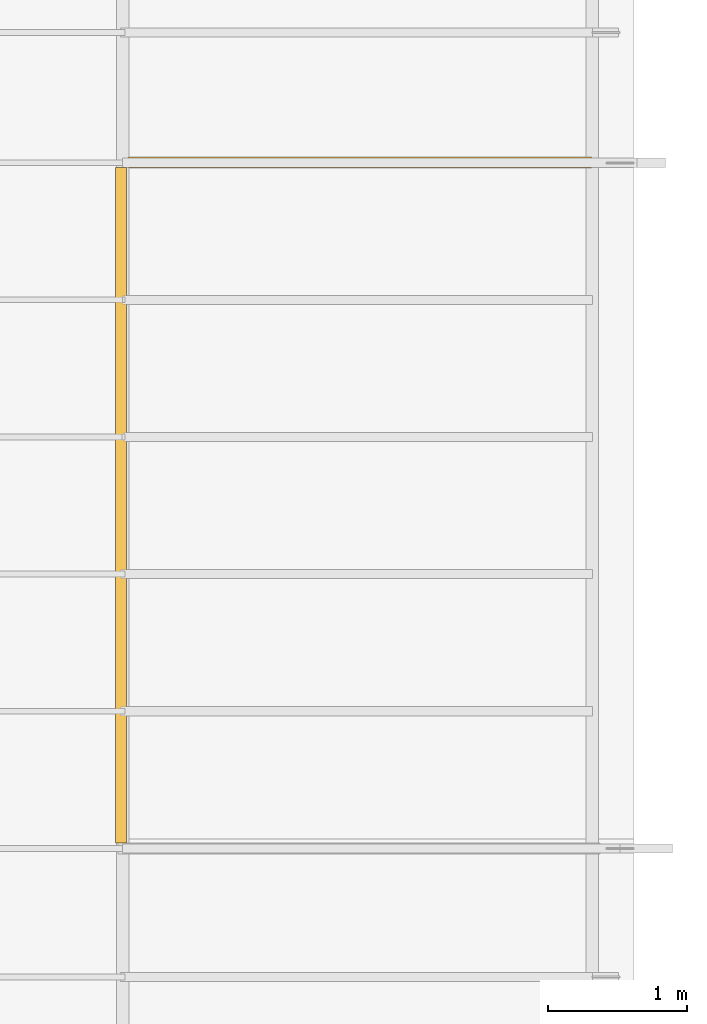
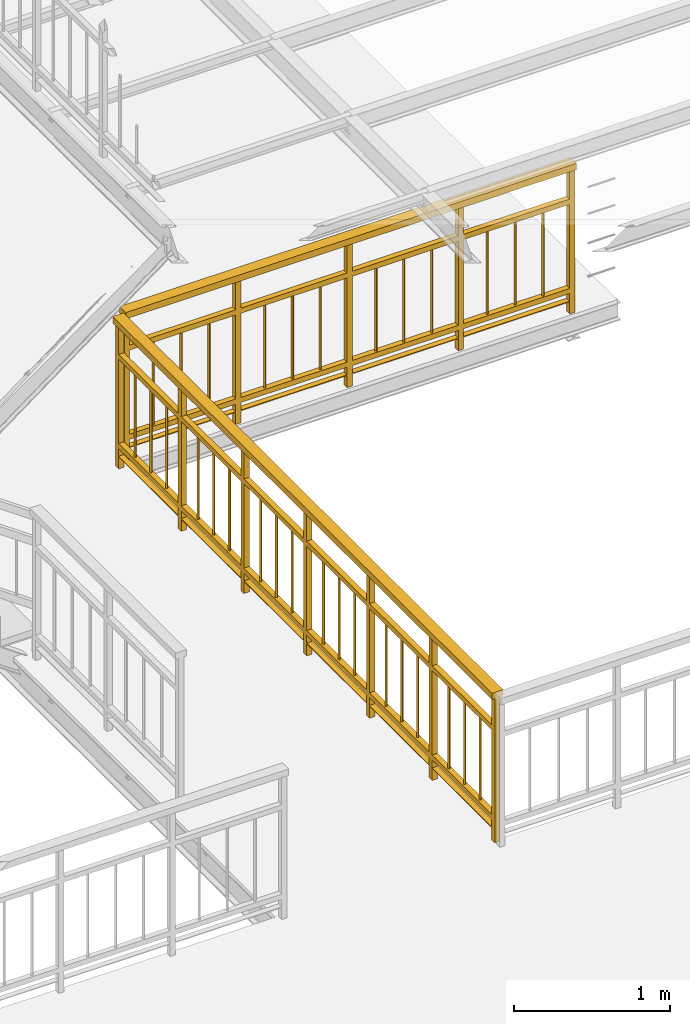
# One storey, part 30 of 33: 2 railings.
"""IFC2X3 building model written with IfcOpenShell, lengths in metres."""

from ifc_helpers import new_model, entity, si_unit, converted_unit, derived_unit, direction, frame, origin, place, context, subcontext, project, spatial, faceted_brep, element, save


model = new_model("IFC2X3")

# Units and contexts
model_context = context("Model", 3, precision=1e-05, world=origin(), true_north=direction((6.12303176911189e-17, 1.0)))
body_context = subcontext(model_context, "Body", "Model", "MODEL_VIEW")
ifc_project = project(units=[si_unit("LENGTHUNIT", "METRE"), si_unit("AREAUNIT", "SQUARE_METRE"), si_unit("VOLUMEUNIT", "CUBIC_METRE"), converted_unit("PLANEANGLEUNIT", "DEGREE", entity("IfcRatioMeasure", 0.0174532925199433), si_unit("PLANEANGLEUNIT", "RADIAN"), dimensions=[0, 0, 0, 0, 0, 0, 0]), si_unit("MASSUNIT", "GRAM", prefix="KILO"), derived_unit("MASSDENSITYUNIT", [(si_unit("MASSUNIT", "GRAM", prefix="KILO"), 1), (si_unit("LENGTHUNIT", "METRE"), -3)]), derived_unit("MOMENTOFINERTIAUNIT", [(si_unit("LENGTHUNIT", "METRE"), 4)]), si_unit("TIMEUNIT", "SECOND"), si_unit("FREQUENCYUNIT", "HERTZ"), si_unit("THERMODYNAMICTEMPERATUREUNIT", "DEGREE_CELSIUS"), derived_unit("THERMALTRANSMITTANCEUNIT", [(si_unit("MASSUNIT", "GRAM", prefix="KILO"), 1), (si_unit("THERMODYNAMICTEMPERATUREUNIT", "KELVIN"), -1), (si_unit("TIMEUNIT", "SECOND"), -3)]), derived_unit("VOLUMETRICFLOWRATEUNIT", [(si_unit("LENGTHUNIT", "METRE"), 3), (si_unit("TIMEUNIT", "SECOND"), -1)]), si_unit("ELECTRICCURRENTUNIT", "AMPERE"), si_unit("ELECTRICVOLTAGEUNIT", "VOLT"), si_unit("POWERUNIT", "WATT"), si_unit("FORCEUNIT", "NEWTON", prefix="KILO"), si_unit("ILLUMINANCEUNIT", "LUX"), si_unit("LUMINOUSFLUXUNIT", "LUMEN"), si_unit("LUMINOUSINTENSITYUNIT", "CANDELA"), derived_unit("USERDEFINED", [(si_unit("MASSUNIT", "GRAM", prefix="KILO"), -1), (si_unit("LENGTHUNIT", "METRE"), -2), (si_unit("TIMEUNIT", "SECOND"), 3), (si_unit("LUMINOUSFLUXUNIT", "LUMEN"), 1)]), derived_unit("LINEARVELOCITYUNIT", [(si_unit("LENGTHUNIT", "METRE"), 1), (si_unit("TIMEUNIT", "SECOND"), -1)]), si_unit("PRESSUREUNIT", "PASCAL"), derived_unit("USERDEFINED", [(si_unit("LENGTHUNIT", "METRE"), -2), (si_unit("MASSUNIT", "GRAM", prefix="KILO"), 1), (si_unit("TIMEUNIT", "SECOND"), -2)]), derived_unit("LINEARFORCEUNIT", [(si_unit("MASSUNIT", "GRAM", prefix="KILO"), 1), (si_unit("LENGTHUNIT", "METRE"), 1), (si_unit("TIMEUNIT", "SECOND"), -2), (si_unit("LENGTHUNIT", "METRE"), -1)]), derived_unit("PLANARFORCEUNIT", [(si_unit("MASSUNIT", "GRAM", prefix="KILO"), 1), (si_unit("LENGTHUNIT", "METRE"), 1), (si_unit("TIMEUNIT", "SECOND"), -2), (si_unit("LENGTHUNIT", "METRE"), -2)])], contexts=[model_context])

# Site, building, storey
site_placement = place(None, origin())
site = spatial("IfcSite", under=ifc_project, at=site_placement, Name="Superficie", CompositionType="ELEMENT")
building_placement = place(site_placement, origin())
building = spatial("IfcBuilding", under=site, at=building_placement, Name="Telegestiones", CompositionType="ELEMENT")
storey_placement = place(building_placement, frame((0.0, 0.0, 4.94)))
storey = spatial("IfcBuildingStorey", under=building, at=storey_placement, Name="Nivel 1_NPT", CompositionType="ELEMENT", Elevation=4.94)

# Railings
railing_1_placement = place(storey_placement, frame((11.3148126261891, 6.39560722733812, 0.0)))
element("IfcRailing", 1, at=railing_1_placement, inside=storey, Name="Barandilla:ARQ-BA-IN-118-Hi-Ba3", ObjectType="Barandilla:ARQ-BA-IN-118-Hi-Ba3", PredefinedType="NOTDEFINED", context=body_context, shape_type="Brep", body=[
    faceted_brep([(3.1185922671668, 0.0500000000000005, 0.859999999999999), (3.1285922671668, 0.0400000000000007, 0.859999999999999), (3.1285922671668, 0.0400000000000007, 0.2), (3.1185922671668, 0.0500000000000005, 0.2), (3.1185922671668, 0.0300000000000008, 0.859999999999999), (3.1185922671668, 0.0300000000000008, 0.2), (3.1085922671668, 0.0400000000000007, 0.2), (3.1085922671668, 0.0400000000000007, 0.859999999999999)], [[[0, 1, 2, 3]], [[4, 5, 2, 1]], [[6, 5, 4, 7]], [[0, 3, 6, 7]], [[7, 4, 1, 0]], [[5, 6, 3, 2]]]),
    faceted_brep([(2.91201944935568, 0.0500000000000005, 0.859999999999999), (2.92201944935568, 0.0400000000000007, 0.859999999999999), (2.92201944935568, 0.0400000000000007, 0.2), (2.91201944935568, 0.0500000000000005, 0.2), (2.91201944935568, 0.0300000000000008, 0.859999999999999), (2.91201944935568, 0.0300000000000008, 0.2), (2.90201944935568, 0.0400000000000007, 0.2), (2.90201944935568, 0.0400000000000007, 0.859999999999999)], [[[0, 1, 2, 3]], [[4, 5, 2, 1]], [[6, 5, 4, 7]], [[0, 3, 6, 7]], [[7, 4, 1, 0]], [[5, 6, 3, 2]]]),
    faceted_brep([(2.70544663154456, 0.0500000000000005, 0.859999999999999), (2.71544663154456, 0.0400000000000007, 0.859999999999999), (2.71544663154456, 0.0400000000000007, 0.2), (2.70544663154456, 0.0500000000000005, 0.2), (2.70544663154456, 0.0300000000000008, 0.859999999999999), (2.70544663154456, 0.0300000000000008, 0.2), (2.69544663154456, 0.0400000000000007, 0.2), (2.69544663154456, 0.0400000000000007, 0.859999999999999)], [[[0, 1, 2, 3]], [[4, 5, 2, 1]], [[6, 5, 4, 7]], [[0, 3, 6, 7]], [[7, 4, 1, 0]], [[5, 6, 3, 2]]]),
    faceted_brep([(2.47887381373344, 0.0200000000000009, 1.13), (2.47887381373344, 0.0600000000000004, 1.13), (2.47887381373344, 0.0600000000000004, 0.0), (2.47887381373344, 0.0200000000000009, 0.0), (2.51887381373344, 0.0600000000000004, 1.13), (2.51887381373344, 0.0600000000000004, 0.0), (2.51887381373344, 0.0200000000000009, 1.13), (2.51887381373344, 0.0200000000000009, 0.0)], [[[0, 1, 2, 3]], [[1, 4, 5, 2]], [[4, 6, 7, 5]], [[3, 7, 6, 0]], [[0, 6, 4, 1]], [[2, 5, 7, 3]]]),
    faceted_brep([(2.29230099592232, 0.0500000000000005, 0.859999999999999), (2.30230099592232, 0.0400000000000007, 0.859999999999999), (2.30230099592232, 0.0400000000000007, 0.2), (2.29230099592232, 0.0500000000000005, 0.2), (2.29230099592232, 0.0300000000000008, 0.859999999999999), (2.29230099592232, 0.0300000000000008, 0.2), (2.28230099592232, 0.0400000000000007, 0.2), (2.28230099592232, 0.0400000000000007, 0.859999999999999)], [[[0, 1, 2, 3]], [[4, 5, 2, 1]], [[6, 5, 4, 7]], [[0, 3, 6, 7]], [[7, 4, 1, 0]], [[5, 6, 3, 2]]]),
    faceted_brep([(2.0857281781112, 0.0500000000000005, 0.859999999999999), (2.0957281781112, 0.0400000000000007, 0.859999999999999), (2.0957281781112, 0.0400000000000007, 0.2), (2.0857281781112, 0.0500000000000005, 0.2), (2.0857281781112, 0.0300000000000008, 0.859999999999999), (2.0857281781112, 0.0300000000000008, 0.2), (2.0757281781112, 0.0400000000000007, 0.2), (2.0757281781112, 0.0400000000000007, 0.859999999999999)], [[[0, 1, 2, 3]], [[4, 5, 2, 1]], [[6, 5, 4, 7]], [[0, 3, 6, 7]], [[7, 4, 1, 0]], [[5, 6, 3, 2]]]),
    faceted_brep([(1.87915536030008, 0.0500000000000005, 0.859999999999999), (1.88915536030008, 0.0400000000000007, 0.859999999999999), (1.88915536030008, 0.0400000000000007, 0.2), (1.87915536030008, 0.0500000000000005, 0.2), (1.87915536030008, 0.0300000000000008, 0.859999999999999), (1.87915536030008, 0.0300000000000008, 0.2), (1.86915536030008, 0.0400000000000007, 0.2), (1.86915536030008, 0.0400000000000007, 0.859999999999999)], [[[0, 1, 2, 3]], [[4, 5, 2, 1]], [[6, 5, 4, 7]], [[0, 3, 6, 7]], [[7, 4, 1, 0]], [[5, 6, 3, 2]]]),
    faceted_brep([(1.65258254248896, 0.0200000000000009, 1.13), (1.65258254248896, 0.0600000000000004, 1.13), (1.65258254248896, 0.0600000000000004, 0.0), (1.65258254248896, 0.0200000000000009, 0.0), (1.69258254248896, 0.0600000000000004, 1.13), (1.69258254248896, 0.0600000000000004, 0.0), (1.69258254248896, 0.0200000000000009, 1.13), (1.69258254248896, 0.0200000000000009, 0.0)], [[[0, 1, 2, 3]], [[1, 4, 5, 2]], [[4, 6, 7, 5]], [[3, 7, 6, 0]], [[0, 6, 4, 1]], [[2, 5, 7, 3]]]),
    faceted_brep([(1.46600972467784, 0.0500000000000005, 0.859999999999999), (1.47600972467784, 0.0400000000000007, 0.859999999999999), (1.47600972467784, 0.0400000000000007, 0.2), (1.46600972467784, 0.0500000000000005, 0.2), (1.46600972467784, 0.0300000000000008, 0.859999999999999), (1.46600972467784, 0.0300000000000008, 0.2), (1.45600972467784, 0.0400000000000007, 0.2), (1.45600972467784, 0.0400000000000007, 0.859999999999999)], [[[0, 1, 2, 3]], [[4, 5, 2, 1]], [[6, 5, 4, 7]], [[0, 3, 6, 7]], [[7, 4, 1, 0]], [[5, 6, 3, 2]]]),
    faceted_brep([(1.25943690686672, 0.0500000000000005, 0.859999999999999), (1.26943690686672, 0.0400000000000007, 0.859999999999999), (1.26943690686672, 0.0400000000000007, 0.2), (1.25943690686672, 0.0500000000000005, 0.2), (1.25943690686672, 0.0300000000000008, 0.859999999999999), (1.25943690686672, 0.0300000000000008, 0.2), (1.24943690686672, 0.0400000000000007, 0.2), (1.24943690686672, 0.0400000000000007, 0.859999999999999)], [[[0, 1, 2, 3]], [[4, 5, 2, 1]], [[6, 5, 4, 7]], [[0, 3, 6, 7]], [[7, 4, 1, 0]], [[5, 6, 3, 2]]]),
    faceted_brep([(1.0528640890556, 0.0500000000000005, 0.859999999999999), (1.0628640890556, 0.0400000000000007, 0.859999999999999), (1.0628640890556, 0.0400000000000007, 0.2), (1.0528640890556, 0.0500000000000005, 0.2), (1.0528640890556, 0.0300000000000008, 0.859999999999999), (1.0528640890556, 0.0300000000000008, 0.2), (1.0428640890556, 0.0400000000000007, 0.2), (1.0428640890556, 0.0400000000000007, 0.859999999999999)], [[[0, 1, 2, 3]], [[4, 5, 2, 1]], [[6, 5, 4, 7]], [[0, 3, 6, 7]], [[7, 4, 1, 0]], [[5, 6, 3, 2]]]),
    faceted_brep([(0.826291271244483, 0.0200000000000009, 1.13), (0.826291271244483, 0.0600000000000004, 1.13), (0.826291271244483, 0.0600000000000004, 0.0), (0.826291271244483, 0.0200000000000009, 0.0), (0.866291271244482, 0.0600000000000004, 1.13), (0.866291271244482, 0.0600000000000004, 0.0), (0.866291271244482, 0.0200000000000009, 1.13), (0.866291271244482, 0.0200000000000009, 0.0)], [[[0, 1, 2, 3]], [[1, 4, 5, 2]], [[4, 6, 7, 5]], [[3, 7, 6, 0]], [[0, 6, 4, 1]], [[2, 5, 7, 3]]]),
    faceted_brep([(0.639718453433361, 0.0500000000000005, 0.859999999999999), (0.649718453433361, 0.0400000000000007, 0.859999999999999), (0.649718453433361, 0.0400000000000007, 0.2), (0.639718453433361, 0.0500000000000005, 0.2), (0.639718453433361, 0.0300000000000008, 0.859999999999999), (0.639718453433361, 0.0300000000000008, 0.2), (0.629718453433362, 0.0400000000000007, 0.2), (0.629718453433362, 0.0400000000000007, 0.859999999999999)], [[[0, 1, 2, 3]], [[4, 5, 2, 1]], [[6, 5, 4, 7]], [[0, 3, 6, 7]], [[7, 4, 1, 0]], [[5, 6, 3, 2]]]),
    faceted_brep([(0.433145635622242, 0.0500000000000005, 0.859999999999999), (0.443145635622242, 0.0400000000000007, 0.859999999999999), (0.443145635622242, 0.0400000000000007, 0.2), (0.433145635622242, 0.0500000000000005, 0.2), (0.433145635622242, 0.0300000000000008, 0.859999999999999), (0.433145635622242, 0.0300000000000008, 0.2), (0.423145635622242, 0.0400000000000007, 0.2), (0.423145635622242, 0.0400000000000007, 0.859999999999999)], [[[0, 1, 2, 3]], [[4, 5, 2, 1]], [[6, 5, 4, 7]], [[0, 3, 6, 7]], [[7, 4, 1, 0]], [[5, 6, 3, 2]]]),
    faceted_brep([(0.226572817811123, 0.0500000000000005, 0.859999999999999), (0.236572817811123, 0.0400000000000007, 0.859999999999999), (0.236572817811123, 0.0400000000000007, 0.2), (0.226572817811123, 0.0500000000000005, 0.2), (0.226572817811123, 0.0300000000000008, 0.859999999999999), (0.226572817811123, 0.0300000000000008, 0.2), (0.216572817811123, 0.0400000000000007, 0.2), (0.216572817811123, 0.0400000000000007, 0.859999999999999)], [[[0, 1, 2, 3]], [[4, 5, 2, 1]], [[6, 5, 4, 7]], [[0, 3, 6, 7]], [[7, 4, 1, 0]], [[5, 6, 3, 2]]]),
    faceted_brep([(3.30516508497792, 0.0200000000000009, 1.13), (3.30516508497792, 0.0600000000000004, 1.13), (3.30516508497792, 0.0600000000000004, 0.0), (3.30516508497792, 0.0200000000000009, 0.0), (3.34516508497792, 0.0600000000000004, 1.13), (3.34516508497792, 0.0600000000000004, 0.0), (3.34516508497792, 0.0200000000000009, 1.13), (3.34516508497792, 0.0200000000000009, 0.0)], [[[0, 1, 2, 3]], [[1, 4, 5, 2]], [[4, 6, 7, 5]], [[3, 7, 6, 0]], [[0, 6, 4, 1]], [[2, 5, 7, 3]]]),
    faceted_brep([(0.0, 0.0200000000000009, 1.13), (0.0, 0.0600000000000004, 1.13), (0.0, 0.0600000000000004, 0.0), (0.0, 0.0200000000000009, 0.0), (0.0400000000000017, 0.0600000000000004, 1.13), (0.0400000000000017, 0.0600000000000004, 0.0), (0.0400000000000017, 0.0200000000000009, 1.13), (0.0400000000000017, 0.0200000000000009, 0.0)], [[[0, 1, 2, 3]], [[1, 4, 5, 2]], [[4, 6, 7, 5]], [[3, 7, 6, 0]], [[0, 6, 4, 1]], [[2, 5, 7, 3]]]),
    faceted_brep([(0.020000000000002, 0.0600000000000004, 0.9), (0.020000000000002, 0.0600000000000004, 0.860000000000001), (0.020000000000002, 0.0200000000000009, 0.860000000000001), (0.020000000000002, 0.0200000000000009, 0.9), (3.32516508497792, 0.0600000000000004, 0.9), (3.32516508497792, 0.0200000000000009, 0.9), (3.32516508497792, 0.0200000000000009, 0.860000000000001), (3.32516508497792, 0.0600000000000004, 0.860000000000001)], [[[0, 1, 2, 3]], [[4, 5, 6, 7]], [[3, 2, 6, 5]], [[1, 0, 4, 7]], [[2, 1, 7, 6]], [[0, 3, 5, 4]]]),
    faceted_brep([(0.020000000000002, 0.0600000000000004, 0.2), (0.020000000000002, 0.0600000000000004, 0.16), (0.020000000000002, 0.0200000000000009, 0.16), (0.020000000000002, 0.0200000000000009, 0.2), (3.32516508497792, 0.0600000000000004, 0.2), (3.32516508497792, 0.0200000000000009, 0.2), (3.32516508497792, 0.0200000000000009, 0.16), (3.32516508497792, 0.0600000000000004, 0.16)], [[[0, 1, 2, 3]], [[4, 5, 6, 7]], [[3, 2, 6, 5]], [[1, 0, 4, 7]], [[2, 1, 7, 6]], [[0, 3, 5, 4]]]),
    faceted_brep([(0.020000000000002, 0.0600000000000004, 0.1), (0.020000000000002, 0.0600000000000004, 0.0940000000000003), (0.020000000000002, 0.0200000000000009, 0.0940000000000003), (0.020000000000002, 0.0200000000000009, 0.1), (3.32516508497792, 0.0600000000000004, 0.1), (3.32516508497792, 0.0200000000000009, 0.1), (3.32516508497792, 0.0200000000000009, 0.0940000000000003), (3.32516508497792, 0.0600000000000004, 0.0940000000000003)], [[[0, 1, 2, 3]], [[4, 5, 6, 7]], [[0, 3, 5, 4]], [[3, 2, 6, 5]], [[1, 0, 4, 7]], [[2, 1, 7, 6]]]),
    faceted_brep([(0.020000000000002, 0.0800000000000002, 1.13), (0.020000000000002, 0.0800000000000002, 1.18), (3.32516508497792, 0.0800000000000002, 1.18), (3.32516508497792, 0.0800000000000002, 1.13), (0.020000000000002, 0.0, 1.13), (3.32516508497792, 0.0, 1.13), (0.020000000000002, 0.0, 1.18), (3.32516508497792, 0.0, 1.18), (3.34516508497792, 0.0800000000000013, 1.18), (3.34516508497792, 0.0, 1.18), (3.34516508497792, 0.0, 1.13), (3.34516508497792, 0.0800000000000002, 1.13), (0.0, 0.0800000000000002, 1.18), (0.0, 0.0800000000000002, 1.13), (0.0, 0.0, 1.13), (0.0, 0.0, 1.18)], [[[0, 1, 2, 3]], [[4, 0, 3, 5]], [[6, 4, 5, 7]], [[1, 6, 7, 2]], [[8, 9, 10, 11]], [[3, 2, 8, 11]], [[5, 3, 11, 10]], [[7, 5, 10, 9]], [[2, 7, 9, 8]], [[12, 13, 14, 15]], [[13, 12, 1, 0]], [[14, 13, 0, 4]], [[15, 14, 4, 6]], [[12, 15, 6, 1]]]),
])
railing_2_placement = place(storey_placement, frame((11.2208126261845, 1.5246072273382, 0.0)))
element("IfcRailing", 2, at=railing_2_placement, inside=storey, Name="Barandilla:ARQ-BA-IN-118-Hi-Ba4", ObjectType="Barandilla:ARQ-BA-IN-118-Hi-Ba4", PredefinedType="NOTDEFINED", context=body_context, shape_type="Brep", body=[
    faceted_brep([(0.0499999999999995, 4.65449999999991, 0.2), (0.0399999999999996, 4.66449999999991, 0.2), (0.0399999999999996, 4.66449999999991, 0.859999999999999), (0.0499999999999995, 4.65449999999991, 0.859999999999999), (0.0299999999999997, 4.65449999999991, 0.2), (0.0299999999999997, 4.65449999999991, 0.859999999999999), (0.0399999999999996, 4.64449999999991, 0.2), (0.0399999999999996, 4.64449999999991, 0.859999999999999)], [[[0, 1, 2, 3]], [[2, 1, 4, 5]], [[5, 4, 6, 7]], [[7, 6, 0, 3]], [[3, 2, 5, 7]], [[0, 6, 4, 1]]]),
    faceted_brep([(0.0499999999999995, 4.45299999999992, 0.2), (0.0399999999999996, 4.46299999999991, 0.2), (0.0399999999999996, 4.46299999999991, 0.859999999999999), (0.0499999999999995, 4.45299999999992, 0.859999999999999), (0.0299999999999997, 4.45299999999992, 0.2), (0.0299999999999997, 4.45299999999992, 0.859999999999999), (0.0399999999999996, 4.44299999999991, 0.2), (0.0399999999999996, 4.44299999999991, 0.859999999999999)], [[[0, 1, 2, 3]], [[2, 1, 4, 5]], [[5, 4, 6, 7]], [[7, 6, 0, 3]], [[3, 2, 5, 7]], [[0, 6, 4, 1]]]),
    faceted_brep([(0.0499999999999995, 4.25149999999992, 0.2), (0.0399999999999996, 4.26149999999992, 0.2), (0.0399999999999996, 4.26149999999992, 0.859999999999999), (0.0499999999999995, 4.25149999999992, 0.859999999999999), (0.0299999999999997, 4.25149999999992, 0.2), (0.0299999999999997, 4.25149999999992, 0.859999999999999), (0.0399999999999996, 4.24149999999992, 0.2), (0.0399999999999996, 4.24149999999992, 0.859999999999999)], [[[0, 1, 2, 3]], [[2, 1, 4, 5]], [[5, 4, 6, 7]], [[7, 6, 0, 3]], [[3, 2, 5, 7]], [[0, 6, 4, 1]]]),
    faceted_brep([(0.0199999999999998, 4.02999999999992, 1.13), (0.0199999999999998, 4.02999999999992, 0.0), (0.0599999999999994, 4.02999999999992, 0.0), (0.0599999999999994, 4.02999999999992, 1.13), (0.0599999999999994, 4.06999999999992, 0.0), (0.0599999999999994, 4.06999999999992, 1.13), (0.0199999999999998, 4.06999999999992, 0.0), (0.0199999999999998, 4.06999999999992, 1.13)], [[[0, 1, 2, 3]], [[3, 2, 4, 5]], [[5, 4, 6, 7]], [[1, 0, 7, 6]], [[0, 3, 5, 7]], [[2, 1, 6, 4]]]),
    faceted_brep([(0.0499999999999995, 3.84849999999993, 0.2), (0.0399999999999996, 3.85849999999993, 0.2), (0.0399999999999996, 3.85849999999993, 0.859999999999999), (0.0499999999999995, 3.84849999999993, 0.859999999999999), (0.0299999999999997, 3.84849999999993, 0.2), (0.0299999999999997, 3.84849999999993, 0.859999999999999), (0.0399999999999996, 3.83849999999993, 0.2), (0.0399999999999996, 3.83849999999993, 0.859999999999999)], [[[0, 1, 2, 3]], [[2, 1, 4, 5]], [[5, 4, 6, 7]], [[7, 6, 0, 3]], [[3, 2, 5, 7]], [[0, 6, 4, 1]]]),
    faceted_brep([(0.0499999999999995, 3.64699999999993, 0.2), (0.0399999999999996, 3.65699999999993, 0.2), (0.0399999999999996, 3.65699999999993, 0.859999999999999), (0.0499999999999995, 3.64699999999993, 0.859999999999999), (0.0299999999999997, 3.64699999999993, 0.2), (0.0299999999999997, 3.64699999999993, 0.859999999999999), (0.0399999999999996, 3.63699999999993, 0.2), (0.0399999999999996, 3.63699999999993, 0.859999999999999)], [[[0, 1, 2, 3]], [[2, 1, 4, 5]], [[5, 4, 6, 7]], [[7, 6, 0, 3]], [[3, 2, 5, 7]], [[0, 6, 4, 1]]]),
    faceted_brep([(0.0499999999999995, 3.44549999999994, 0.2), (0.0399999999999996, 3.45549999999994, 0.2), (0.0399999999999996, 3.45549999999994, 0.859999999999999), (0.0499999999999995, 3.44549999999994, 0.859999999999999), (0.0299999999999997, 3.44549999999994, 0.2), (0.0299999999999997, 3.44549999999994, 0.859999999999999), (0.0399999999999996, 3.43549999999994, 0.2), (0.0399999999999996, 3.43549999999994, 0.859999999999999)], [[[0, 1, 2, 3]], [[2, 1, 4, 5]], [[5, 4, 6, 7]], [[7, 6, 0, 3]], [[3, 2, 5, 7]], [[0, 6, 4, 1]]]),
    faceted_brep([(0.0199999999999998, 3.22399999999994, 1.13), (0.0199999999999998, 3.22399999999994, 0.0), (0.0599999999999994, 3.22399999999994, 0.0), (0.0599999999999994, 3.22399999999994, 1.13), (0.0599999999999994, 3.26399999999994, 0.0), (0.0599999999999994, 3.26399999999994, 1.13), (0.0199999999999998, 3.26399999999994, 0.0), (0.0199999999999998, 3.26399999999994, 1.13)], [[[0, 1, 2, 3]], [[3, 2, 4, 5]], [[5, 4, 6, 7]], [[1, 0, 7, 6]], [[0, 3, 5, 7]], [[2, 1, 6, 4]]]),
    faceted_brep([(0.0499999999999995, 3.04249999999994, 0.2), (0.0399999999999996, 3.05249999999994, 0.2), (0.0399999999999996, 3.05249999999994, 0.859999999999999), (0.0499999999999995, 3.04249999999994, 0.859999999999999), (0.0299999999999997, 3.04249999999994, 0.2), (0.0299999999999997, 3.04249999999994, 0.859999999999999), (0.0399999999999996, 3.03249999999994, 0.2), (0.0399999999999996, 3.03249999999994, 0.859999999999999)], [[[0, 1, 2, 3]], [[2, 1, 4, 5]], [[5, 4, 6, 7]], [[7, 6, 0, 3]], [[3, 2, 5, 7]], [[0, 6, 4, 1]]]),
    faceted_brep([(0.0499999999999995, 2.84099999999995, 0.2), (0.0399999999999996, 2.85099999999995, 0.2), (0.0399999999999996, 2.85099999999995, 0.859999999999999), (0.0499999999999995, 2.84099999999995, 0.859999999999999), (0.0299999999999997, 2.84099999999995, 0.2), (0.0299999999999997, 2.84099999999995, 0.859999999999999), (0.0399999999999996, 2.83099999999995, 0.2), (0.0399999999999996, 2.83099999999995, 0.859999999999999)], [[[0, 1, 2, 3]], [[2, 1, 4, 5]], [[5, 4, 6, 7]], [[7, 6, 0, 3]], [[3, 2, 5, 7]], [[0, 6, 4, 1]]]),
    faceted_brep([(0.0499999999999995, 2.63949999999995, 0.2), (0.0399999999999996, 2.64949999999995, 0.2), (0.0399999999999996, 2.64949999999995, 0.859999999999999), (0.0499999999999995, 2.63949999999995, 0.859999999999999), (0.0299999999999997, 2.63949999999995, 0.2), (0.0299999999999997, 2.63949999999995, 0.859999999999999), (0.0399999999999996, 2.62949999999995, 0.2), (0.0399999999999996, 2.62949999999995, 0.859999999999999)], [[[0, 1, 2, 3]], [[2, 1, 4, 5]], [[5, 4, 6, 7]], [[7, 6, 0, 3]], [[3, 2, 5, 7]], [[0, 6, 4, 1]]]),
    faceted_brep([(0.0199999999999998, 2.41799999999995, 1.13), (0.0199999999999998, 2.41799999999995, 0.0), (0.0599999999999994, 2.41799999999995, 0.0), (0.0599999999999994, 2.41799999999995, 1.13), (0.0599999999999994, 2.45799999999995, 0.0), (0.0599999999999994, 2.45799999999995, 1.13), (0.0199999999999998, 2.45799999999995, 0.0), (0.0199999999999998, 2.45799999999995, 1.13)], [[[0, 1, 2, 3]], [[3, 2, 4, 5]], [[5, 4, 6, 7]], [[1, 0, 7, 6]], [[0, 3, 5, 7]], [[2, 1, 6, 4]]]),
    faceted_brep([(0.0499999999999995, 2.23649999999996, 0.2), (0.0399999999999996, 2.24649999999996, 0.2), (0.0399999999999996, 2.24649999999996, 0.859999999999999), (0.0499999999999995, 2.23649999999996, 0.859999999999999), (0.0299999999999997, 2.23649999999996, 0.2), (0.0299999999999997, 2.23649999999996, 0.859999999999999), (0.0399999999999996, 2.22649999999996, 0.2), (0.0399999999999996, 2.22649999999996, 0.859999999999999)], [[[0, 1, 2, 3]], [[2, 1, 4, 5]], [[5, 4, 6, 7]], [[7, 6, 0, 3]], [[3, 2, 5, 7]], [[0, 6, 4, 1]]]),
    faceted_brep([(0.0499999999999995, 2.03499999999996, 0.2), (0.0399999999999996, 2.04499999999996, 0.2), (0.0399999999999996, 2.04499999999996, 0.859999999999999), (0.0499999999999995, 2.03499999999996, 0.859999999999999), (0.0299999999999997, 2.03499999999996, 0.2), (0.0299999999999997, 2.03499999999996, 0.859999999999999), (0.0399999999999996, 2.02499999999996, 0.2), (0.0399999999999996, 2.02499999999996, 0.859999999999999)], [[[0, 1, 2, 3]], [[2, 1, 4, 5]], [[5, 4, 6, 7]], [[7, 6, 0, 3]], [[3, 2, 5, 7]], [[0, 6, 4, 1]]]),
    faceted_brep([(0.0499999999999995, 1.83349999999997, 0.2), (0.0399999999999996, 1.84349999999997, 0.2), (0.0399999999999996, 1.84349999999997, 0.859999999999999), (0.0499999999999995, 1.83349999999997, 0.859999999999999), (0.0299999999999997, 1.83349999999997, 0.2), (0.0299999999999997, 1.83349999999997, 0.859999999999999), (0.0399999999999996, 1.82349999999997, 0.2), (0.0399999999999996, 1.82349999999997, 0.859999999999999)], [[[0, 1, 2, 3]], [[2, 1, 4, 5]], [[5, 4, 6, 7]], [[7, 6, 0, 3]], [[3, 2, 5, 7]], [[0, 6, 4, 1]]]),
    faceted_brep([(0.0199999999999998, 1.61199999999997, 1.13), (0.0199999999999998, 1.61199999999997, 0.0), (0.0599999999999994, 1.61199999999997, 0.0), (0.0599999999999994, 1.61199999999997, 1.13), (0.0599999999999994, 1.65199999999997, 0.0), (0.0599999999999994, 1.65199999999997, 1.13), (0.0199999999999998, 1.65199999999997, 0.0), (0.0199999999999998, 1.65199999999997, 1.13)], [[[0, 1, 2, 3]], [[3, 2, 4, 5]], [[5, 4, 6, 7]], [[1, 0, 7, 6]], [[0, 3, 5, 7]], [[2, 1, 6, 4]]]),
    faceted_brep([(0.0499999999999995, 1.43049999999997, 0.2), (0.0399999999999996, 1.44049999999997, 0.2), (0.0399999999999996, 1.44049999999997, 0.859999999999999), (0.0499999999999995, 1.43049999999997, 0.859999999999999), (0.0299999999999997, 1.43049999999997, 0.2), (0.0299999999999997, 1.43049999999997, 0.859999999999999), (0.0399999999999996, 1.42049999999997, 0.2), (0.0399999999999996, 1.42049999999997, 0.859999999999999)], [[[0, 1, 2, 3]], [[2, 1, 4, 5]], [[5, 4, 6, 7]], [[7, 6, 0, 3]], [[3, 2, 5, 7]], [[0, 6, 4, 1]]]),
    faceted_brep([(0.0499999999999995, 1.22899999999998, 0.2), (0.0399999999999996, 1.23899999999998, 0.2), (0.0399999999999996, 1.23899999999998, 0.859999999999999), (0.0499999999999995, 1.22899999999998, 0.859999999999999), (0.0299999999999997, 1.22899999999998, 0.2), (0.0299999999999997, 1.22899999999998, 0.859999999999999), (0.0399999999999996, 1.21899999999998, 0.2), (0.0399999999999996, 1.21899999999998, 0.859999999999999)], [[[0, 1, 2, 3]], [[2, 1, 4, 5]], [[5, 4, 6, 7]], [[7, 6, 0, 3]], [[3, 2, 5, 7]], [[0, 6, 4, 1]]]),
    faceted_brep([(0.0499999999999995, 1.02749999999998, 0.2), (0.0399999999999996, 1.03749999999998, 0.2), (0.0399999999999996, 1.03749999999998, 0.859999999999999), (0.0499999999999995, 1.02749999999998, 0.859999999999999), (0.0299999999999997, 1.02749999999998, 0.2), (0.0299999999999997, 1.02749999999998, 0.859999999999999), (0.0399999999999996, 1.01749999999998, 0.2), (0.0399999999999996, 1.01749999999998, 0.859999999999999)], [[[0, 1, 2, 3]], [[2, 1, 4, 5]], [[5, 4, 6, 7]], [[7, 6, 0, 3]], [[3, 2, 5, 7]], [[0, 6, 4, 1]]]),
    faceted_brep([(0.0199999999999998, 0.805999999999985, 1.13), (0.0199999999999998, 0.805999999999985, 0.0), (0.0599999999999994, 0.805999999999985, 0.0), (0.0599999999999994, 0.805999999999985, 1.13), (0.0599999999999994, 0.845999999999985, 0.0), (0.0599999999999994, 0.845999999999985, 1.13), (0.0199999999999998, 0.845999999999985, 0.0), (0.0199999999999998, 0.845999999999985, 1.13)], [[[0, 1, 2, 3]], [[3, 2, 4, 5]], [[5, 4, 6, 7]], [[1, 0, 7, 6]], [[0, 3, 5, 7]], [[2, 1, 6, 4]]]),
    faceted_brep([(0.0499999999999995, 0.624499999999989, 0.2), (0.0399999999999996, 0.634499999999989, 0.2), (0.0399999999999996, 0.634499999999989, 0.859999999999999), (0.0499999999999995, 0.624499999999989, 0.859999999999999), (0.0299999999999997, 0.624499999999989, 0.2), (0.0299999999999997, 0.624499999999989, 0.859999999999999), (0.0399999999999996, 0.614499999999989, 0.2), (0.0399999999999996, 0.614499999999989, 0.859999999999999)], [[[0, 1, 2, 3]], [[2, 1, 4, 5]], [[5, 4, 6, 7]], [[7, 6, 0, 3]], [[3, 2, 5, 7]], [[0, 6, 4, 1]]]),
    faceted_brep([(0.0499999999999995, 0.422999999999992, 0.2), (0.0399999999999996, 0.432999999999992, 0.2), (0.0399999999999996, 0.432999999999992, 0.859999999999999), (0.0499999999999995, 0.422999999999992, 0.859999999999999), (0.0299999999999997, 0.422999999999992, 0.2), (0.0299999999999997, 0.422999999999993, 0.859999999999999), (0.0399999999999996, 0.412999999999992, 0.2), (0.0399999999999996, 0.412999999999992, 0.859999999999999)], [[[0, 1, 2, 3]], [[2, 1, 4, 5]], [[5, 4, 6, 7]], [[7, 6, 0, 3]], [[3, 2, 5, 7]], [[0, 6, 4, 1]]]),
    faceted_brep([(0.0499999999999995, 0.221499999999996, 0.2), (0.0399999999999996, 0.231499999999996, 0.2), (0.0399999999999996, 0.231499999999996, 0.859999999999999), (0.0499999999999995, 0.221499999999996, 0.859999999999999), (0.0299999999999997, 0.221499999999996, 0.2), (0.0299999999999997, 0.221499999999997, 0.859999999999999), (0.0399999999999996, 0.211499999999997, 0.2), (0.0399999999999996, 0.211499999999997, 0.859999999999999)], [[[0, 1, 2, 3]], [[2, 1, 4, 5]], [[5, 4, 6, 7]], [[7, 6, 0, 3]], [[3, 2, 5, 7]], [[0, 6, 4, 1]]]),
    faceted_brep([(0.0199999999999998, 4.83599999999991, 1.13), (0.0199999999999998, 4.83599999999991, 0.0), (0.0599999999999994, 4.83599999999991, 0.0), (0.0599999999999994, 4.83599999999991, 1.13), (0.0599999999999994, 4.87599999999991, 0.0), (0.0599999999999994, 4.87599999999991, 1.13), (0.0199999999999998, 4.87599999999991, 0.0), (0.0199999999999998, 4.87599999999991, 1.13)], [[[0, 1, 2, 3]], [[3, 2, 4, 5]], [[5, 4, 6, 7]], [[1, 0, 7, 6]], [[0, 3, 5, 7]], [[2, 1, 6, 4]]]),
    faceted_brep([(0.0199999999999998, 0.0, 1.13), (0.0199999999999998, 0.0, 0.0), (0.0599999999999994, 0.0, 0.0), (0.0599999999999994, 0.0, 1.13), (0.0599999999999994, 0.0400000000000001, 0.0), (0.0599999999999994, 0.0400000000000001, 1.13), (0.0199999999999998, 0.0400000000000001, 0.0), (0.0199999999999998, 0.0400000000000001, 1.13)], [[[0, 1, 2, 3]], [[3, 2, 4, 5]], [[5, 4, 6, 7]], [[1, 0, 7, 6]], [[0, 3, 5, 7]], [[2, 1, 6, 4]]]),
    faceted_brep([(0.0599999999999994, 0.0200000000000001, 0.9), (0.0199999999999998, 0.0200000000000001, 0.9), (0.0199999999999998, 0.0200000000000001, 0.860000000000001), (0.0599999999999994, 0.0200000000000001, 0.860000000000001), (0.0599999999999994, 4.85599999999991, 0.9), (0.0599999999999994, 4.85599999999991, 0.860000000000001), (0.0199999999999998, 4.85599999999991, 0.860000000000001), (0.0199999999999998, 4.85599999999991, 0.9)], [[[0, 1, 2, 3]], [[4, 5, 6, 7]], [[1, 0, 4, 7]], [[2, 1, 7, 6]], [[3, 2, 6, 5]], [[0, 3, 5, 4]]]),
    faceted_brep([(0.0599999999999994, 0.0200000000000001, 0.2), (0.0199999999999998, 0.0200000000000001, 0.2), (0.0199999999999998, 0.0200000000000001, 0.16), (0.0599999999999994, 0.0200000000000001, 0.16), (0.0599999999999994, 4.85599999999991, 0.2), (0.0599999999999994, 4.85599999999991, 0.16), (0.0199999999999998, 4.85599999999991, 0.16), (0.0199999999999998, 4.85599999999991, 0.2)], [[[0, 1, 2, 3]], [[4, 5, 6, 7]], [[1, 0, 4, 7]], [[2, 1, 7, 6]], [[3, 2, 6, 5]], [[0, 3, 5, 4]]]),
    faceted_brep([(0.0599999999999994, 0.0200000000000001, 0.1), (0.0199999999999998, 0.0200000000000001, 0.1), (0.0199999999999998, 0.0200000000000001, 0.0940000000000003), (0.0599999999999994, 0.0200000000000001, 0.0940000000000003), (0.0599999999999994, 4.85599999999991, 0.1), (0.0599999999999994, 4.85599999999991, 0.0940000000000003), (0.0199999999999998, 4.85599999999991, 0.0940000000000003), (0.0199999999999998, 4.85599999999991, 0.1)], [[[0, 1, 2, 3]], [[4, 5, 6, 7]], [[2, 1, 7, 6]], [[1, 0, 4, 7]], [[3, 2, 6, 5]], [[0, 3, 5, 4]]]),
    faceted_brep([(0.0, 0.0200000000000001, 1.13), (0.0, 0.0200000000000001, 1.18), (0.0, 4.85599999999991, 1.18), (0.0, 4.85599999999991, 1.13), (0.0799999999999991, 0.0200000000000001, 1.13), (0.0799999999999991, 4.85599999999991, 1.13), (0.0799999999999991, 0.0200000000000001, 1.18), (0.0799999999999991, 4.85599999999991, 1.18), (0.0, 4.87599999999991, 1.18), (0.0799999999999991, 4.87599999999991, 1.18), (0.0799999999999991, 4.87599999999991, 1.13), (0.0, 4.87599999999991, 1.13), (0.0, 0.0, 1.18), (0.0, 0.0, 1.13), (0.0799999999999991, 0.0, 1.13), (0.0799999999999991, 0.0, 1.18)], [[[0, 1, 2, 3]], [[4, 0, 3, 5]], [[6, 4, 5, 7]], [[1, 6, 7, 2]], [[8, 9, 10, 11]], [[3, 2, 8, 11]], [[5, 3, 11, 10]], [[7, 5, 10, 9]], [[2, 7, 9, 8]], [[12, 13, 14, 15]], [[13, 12, 1, 0]], [[14, 13, 0, 4]], [[15, 14, 4, 6]], [[12, 15, 6, 1]]]),
])

save(model, "model.ifc")
